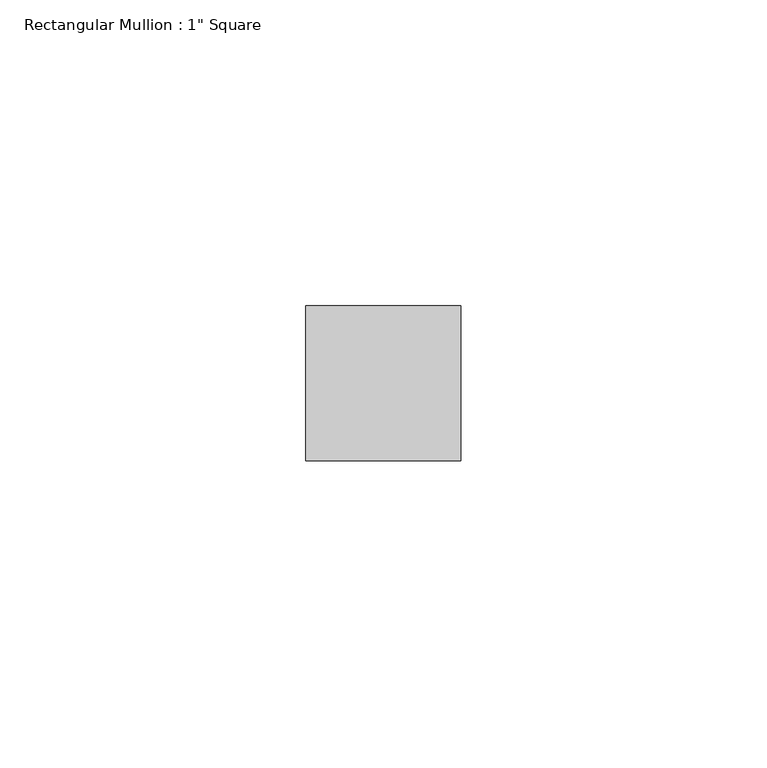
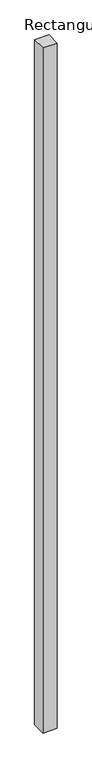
"""IFC4 building model written with IfcOpenShell, lengths in millimetres: member geometry."""

import ifcopenshell
import ifcopenshell.guid

model = None  # the IFC model being written
_history = None  # IfcOwnerHistory: only IFC2X3 demands one
_inside = {}  # id of a spatial element -> (the spatial element, [elements in it])
_under = {}  # id of a project, library or spatial element -> (it, [spatial elements below it])
_declared = {}  # id of a project -> (the project, [libraries it declares])
_typed = {}  # id of a type object -> (the type object, [elements of that type])
_made_of = {}  # id of a material, layer set ... -> (it, [elements and type objects made of it])


def new_model(schema):
    """Start an empty IFC model of exactly this schema.

    Asked for "IFC4X3", IfcOpenShell would pick the latest addendum, in which some entities
    have other attributes; the version numbers below select the first issue.
    IFC2X3 requires an IfcOwnerHistory on every rooted entity: one is made here for all.
    """
    global model, _history
    if schema == "IFC4X3":
        model = ifcopenshell.file(schema_version=(4, 3, 0, 0))
    else:
        model = ifcopenshell.file(schema=schema)
    _inside.clear()
    _under.clear()
    _declared.clear()
    _typed.clear()
    _made_of.clear()
    _history = None
    if model.schema == "IFC2X3":
        org = make("IfcOrganization", Name="unknown")
        user = make(
            "IfcPersonAndOrganization",
            ThePerson=make("IfcPerson", FamilyName="unknown"),
            TheOrganization=org,
        )
        app = make(
            "IfcApplication",
            ApplicationDeveloper=org,
            Version="unknown",
            ApplicationFullName="unknown",
            ApplicationIdentifier="unknown",
        )
        _history = make(
            "IfcOwnerHistory",
            OwningUser=user,
            OwningApplication=app,
            ChangeAction="ADDED",
            CreationDate=0,
        )
    return model


def make(cls, **values):
    """One entity of the class cls with the attributes given. An attribute that is None is left unset."""
    return model.create_entity(
        cls, **{name: value for name, value in values.items() if value is not None}
    )


def rooted(cls, **values):
    """An entity with a GlobalId (a new one), such as an element, a storey or a relation."""
    return make(cls, GlobalId=ifcopenshell.guid.new(), OwnerHistory=_history, **values)


def si_unit(unit_type, name, prefix=None):
    """IfcSIUnit, for example si_unit("LENGTHUNIT", "METRE", prefix="MILLI")."""
    return make("IfcSIUnit", UnitType=unit_type, Prefix=prefix, Name=name)


def assignment(units):
    """IfcUnitAssignment: the units of a project."""
    return None if units is None else make("IfcUnitAssignment", Units=units)


def point(xyz):
    """IfcCartesianPoint."""
    return None if xyz is None else make("IfcCartesianPoint", Coordinates=xyz)


def direction(xyz):
    """IfcDirection."""
    return None if xyz is None else make("IfcDirection", DirectionRatios=xyz)


def frame(location, z_axis=None, x_axis=None):
    """IfcAxis2Placement3D, a coordinate frame: its origin and axes. An axis left out is left unset."""
    return make(
        "IfcAxis2Placement3D",
        Location=point(location),
        Axis=direction(z_axis),
        RefDirection=direction(x_axis),
    )


def origin():
    """The frame at (0, 0, 0) with its axes left unset."""
    return frame((0.0, 0.0, 0.0))


def place(relative_to, where):
    """IfcLocalPlacement: puts the frame where relative to a parent placement (None: the world)."""
    return make(
        "IfcLocalPlacement", PlacementRelTo=relative_to, RelativePlacement=where
    )


def context(
    kind, dimensions, precision=None, world=None, true_north=None, identifier=None
):
    """IfcGeometricRepresentationContext, for example the 3D "Model" context."""
    return make(
        "IfcGeometricRepresentationContext",
        ContextIdentifier=identifier,
        ContextType=kind,
        CoordinateSpaceDimension=dimensions,
        Precision=precision,
        WorldCoordinateSystem=world,
        TrueNorth=true_north,
    )


def project(units=None, contexts=None):
    """IfcProject with its units and contexts."""
    return rooted(
        "IfcProject",
        Name="project",
        RepresentationContexts=contexts,
        UnitsInContext=assignment(units),
    )


def spatial(cls, under=None, at=None, **own):
    """A site, building, storey or space (cls), placed at a placement, below another one or the project."""
    s = rooted(cls, ObjectPlacement=at, **own)
    if under is not None:
        _under.setdefault(under.id(), (under, []))[1].append(s)
    return s


def polyline(points):
    """IfcPolyline through the points."""
    return make("IfcPolyline", Points=[point(p) for p in points])


def outline(outer, holes=None, kind="AREA"):
    """IfcArbitraryClosedProfileDef: a profile drawn as a closed curve; with holes, ...WithVoids."""
    if holes is None:
        return make("IfcArbitraryClosedProfileDef", ProfileType=kind, OuterCurve=outer)
    return make(
        "IfcArbitraryProfileDefWithVoids",
        ProfileType=kind,
        OuterCurve=outer,
        InnerCurves=holes,
    )


def extrude(swept, where, along, depth):
    """IfcExtrudedAreaSolid: the profile swept, set in the frame where, extruded along a direction by depth."""
    return make(
        "IfcExtrudedAreaSolid",
        SweptArea=swept,
        Position=where,
        ExtrudedDirection=direction(along),
        Depth=depth,
    )


def shape(context_of_items, identifier, shape_type, items):
    """IfcShapeRepresentation: the items that make up one representation, for example the "Body"."""
    return make(
        "IfcShapeRepresentation",
        ContextOfItems=context_of_items,
        RepresentationIdentifier=identifier,
        RepresentationType=shape_type,
        Items=items,
    )


def source(mapping_origin, context_of_items, identifier, shape_type, items):
    """IfcRepresentationMap: a shape defined once, which mapped items show again and again."""
    return make(
        "IfcRepresentationMap",
        MappingOrigin=mapping_origin,
        MappedRepresentation=shape(context_of_items, identifier, shape_type, items),
    )


def transform(
    local_origin,
    x_axis=None,
    y_axis=None,
    z_axis=None,
    scale=None,
    scale2=None,
    scale3=None,
    uniform=True,
):
    """IfcCartesianTransformationOperator3D, or its non-uniform kind. x_axis, y_axis, z_axis: its Axis1, 2, 3."""
    if uniform:
        return make(
            "IfcCartesianTransformationOperator3D",
            Axis1=direction(x_axis),
            Axis2=direction(y_axis),
            LocalOrigin=point(local_origin),
            Scale=scale,
            Axis3=direction(z_axis),
        )
    return make(
        "IfcCartesianTransformationOperator3DnonUniform",
        Axis1=direction(x_axis),
        Axis2=direction(y_axis),
        LocalOrigin=point(local_origin),
        Scale=scale,
        Axis3=direction(z_axis),
        Scale2=scale2,
        Scale3=scale3,
    )


def mapped(mapping_source, mapping_target):
    """IfcMappedItem: shows the shape of a source again, moved by a transform."""
    return make(
        "IfcMappedItem", MappingSource=mapping_source, MappingTarget=mapping_target
    )


def made_of(thing, what):
    """Note that an element or type object is made of a material, layer set ...; save() writes the relation."""
    if what is not None:
        _made_of.setdefault(what.id(), (what, []))[1].append(thing)
    return thing


def element(
    cls,
    number,
    at=None,
    inside=None,
    cuts=None,
    type_object=None,
    material=None,
    context=None,
    identifier="Body",
    shape_type=None,
    held_by="IfcProductDefinitionShape",
    body=None,
    shapes=None,
    **own,
):
    """One element of the class cls, such as IfcWall. Its Tag is "e" and its number.

    at: its placement. inside: the storey or other place that contains it. cuts: it is an
    opening in that element (IfcRelVoidsElement). A single representation is given by context,
    identifier, shape_type and body (its items); several are given by shapes. held_by: the class
    of the entity that holds the representations. save() writes the other relations.
    """
    e = rooted(cls, Tag="e%d" % number, ObjectPlacement=at, **own)
    if body is not None:
        shapes = [shape(context, identifier, shape_type, body)]
    if shapes is not None:
        e.Representation = make(held_by, Representations=shapes)
    if inside is not None:
        _inside.setdefault(inside.id(), (inside, []))[1].append(e)
    if cuts is not None:
        rooted(
            "IfcRelVoidsElement", RelatingBuildingElement=cuts, RelatedOpeningElement=e
        )
    if type_object is not None:
        _typed.setdefault(type_object.id(), (type_object, []))[1].append(e)
    return made_of(e, material)


def aggregate(whole, parts):
    """IfcRelAggregates: a whole, such as a stair, and the parts it consists of."""
    return rooted("IfcRelAggregates", RelatingObject=whole, RelatedObjects=parts)


def save(model, path):
    """Write the relations noted so far, then the file.

    IfcRelAggregates (storeys below a building ...), IfcRelContainedInSpatialStructure (elements
    in a storey), IfcRelDefinesByType, IfcRelAssociatesMaterial and IfcRelDeclares: one each for
    every whole, place, type object, material and project.
    """
    for whole, parts in _under.values():
        aggregate(whole, parts)
    for where, things in _inside.values():
        rooted(
            "IfcRelContainedInSpatialStructure",
            RelatedElements=things,
            RelatingStructure=where,
        )
    for kind, things in _typed.values():
        rooted("IfcRelDefinesByType", RelatedObjects=things, RelatingType=kind)
    for what, things in _made_of.values():
        rooted("IfcRelAssociatesMaterial", RelatedObjects=things, RelatingMaterial=what)
    for by, libraries in _declared.values():
        rooted("IfcRelDeclares", RelatingContext=by, RelatedDefinitions=libraries)
    model.write(path)


def member_de981218(model_context):
    return source(origin(), model_context, "Body", "SweptSolid", [
        extrude(outline(polyline([(0.0, 12.7), (0.0, -12.7), (-25.4, -12.7), (-25.4, 12.7), (0.0, 12.7)])), frame((0.0, 0.0, -1290.5144595), z_axis=(0.0, 0.0, 1.0), x_axis=(1.0, 0.0, 0.0)), (0.0, 0.0, 1.0), 1290.5144595),
    ])


if __name__ == "__main__":
    model = new_model("IFC4")
    model_context = context("Model", 3, world=origin())
    ifc_project = project(units=[si_unit("LENGTHUNIT", "METRE", prefix="MILLI")], contexts=[model_context])
    site = spatial("IfcSite", under=ifc_project)
    building = spatial("IfcBuilding", under=site)
    placement = place(None, origin())
    member_shape = member_de981218(model_context)
    element("IfcMember", 1, ObjectType="Rectangular Mullion : 1\" Square", at=placement, inside=building, context=model_context, shape_type="MappedRepresentation", body=[
        mapped(member_shape, transform((0.0, 0.0, 0.0), x_axis=(1.0, 0.0, 0.0), y_axis=(0.0, 1.0, 0.0), z_axis=(0.0, 0.0, 1.0))),
    ])
    save(model, "model.ifc")
